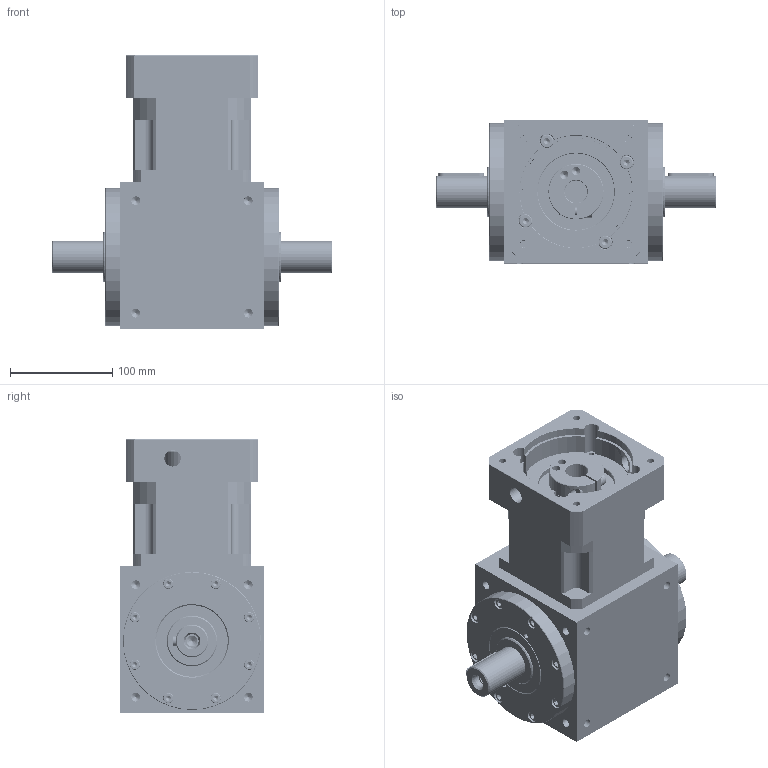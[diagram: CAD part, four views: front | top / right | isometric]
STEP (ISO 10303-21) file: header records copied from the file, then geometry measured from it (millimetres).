
FILE_DESCRIPTION (( 'STEP AP214' ), '1' );
FILE_NAME ('LAT140-FL-AB115-L1-24-110-145-M8蛌砃儂.STEP', '2025-03-02T06:35:29', ( 'Windows 蚚誧' ), ( 'Organization' ), 'SwSTEP 2.0', 'SolidWorks 2023', '' );
FILE_SCHEMA (( 'AUTOMOTIVE_DESIGN' ));
Length unit declared in the file: millimetre
Products named in the file (1): LAT140-FL-AB115-L1-24-110-145-M8转向机
Bounding box: 274 x 140 x 267 mm (x, y, z)
Volume: 3555409 mm3; surface area: 533835.2 mm2
Topology: 38 solids, 38 shells, 4438 faces, 9332 edges, 4994 vertices
Faces by surface type: cone 2330, cylinder 1525, plane 529, torus 54
Entity records: 116390 total; most frequent: DIRECTION 22414, CARTESIAN_POINT 20034, ORIENTED_EDGE 18396, EDGE_CURVE 9198, AXIS2_PLACEMENT_3D 8934, VERTEX_POINT 4994, EDGE_LOOP 4694, LINE 4546
